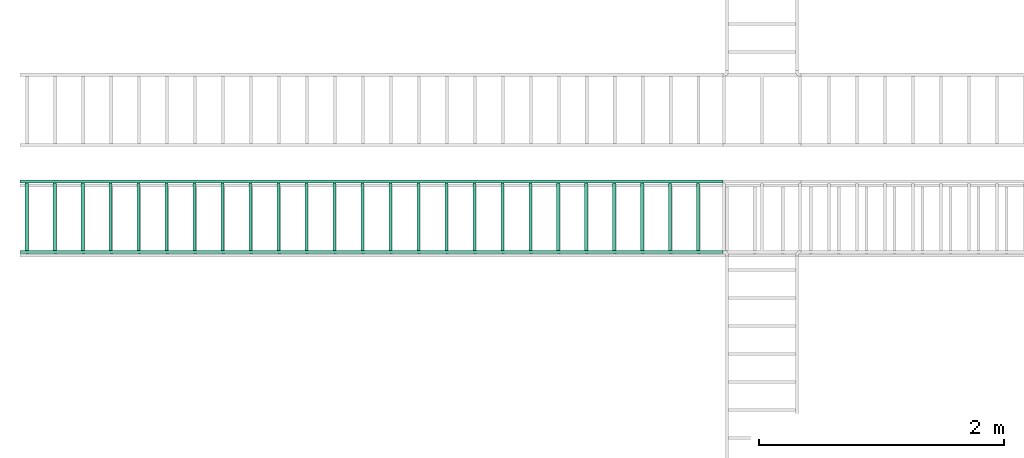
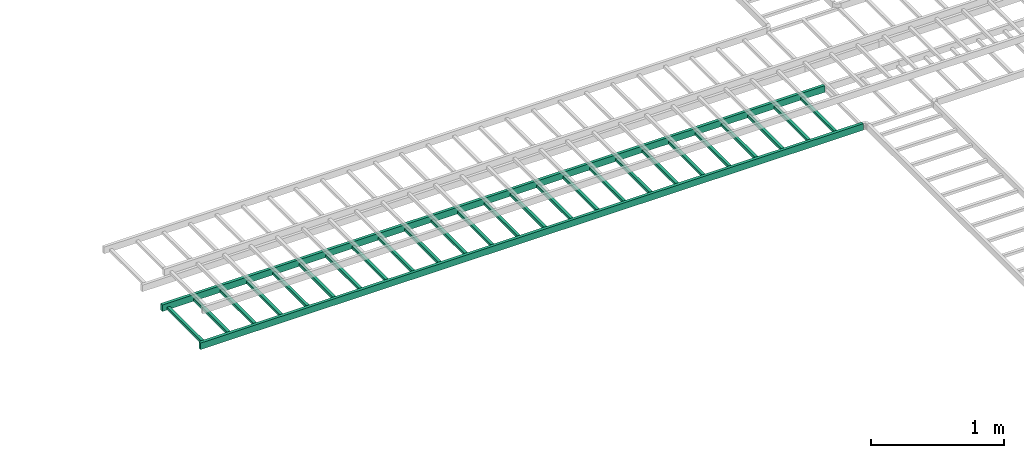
# One storey, part 4 of 7: 1 flow segment.
"""IFC2X3 building model written with IfcOpenShell, lengths in millimetres."""

from ifc_helpers import new_model, entity, si_unit, converted_unit, derived_unit, direction, frame, place, context, subcontext, project, spatial, faceted_brep, type_object, element, save


model = new_model("IFC2X3")

# Units and contexts
model_context = context("Model", 3, precision=0.01, world=frame((0.0, 4.29681676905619e-09, 0.0)), true_north=direction((4.01073788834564e-13, 1.0)))
plan_context = context("Plan", 3, precision=0.01, world=frame((0.0, 4.29681676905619e-09, 0.0)), true_north=direction((4.01073788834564e-13, 1.0)))
body_context = subcontext(model_context, "Body", "Model", "MODEL_VIEW")
ifc_project = project(units=[converted_unit("PLANEANGLEUNIT", "DEGREE", entity("IfcPositiveLengthMeasure", 0.0174532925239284), si_unit("PLANEANGLEUNIT", "RADIAN"), dimensions=[0, 0, 0, 0, 0, 0, 0]), si_unit("AREAUNIT", "SQUARE_METRE"), si_unit("LENGTHUNIT", "METRE", prefix="MILLI"), si_unit("MASSUNIT", "GRAM", prefix="KILO"), si_unit("POWERUNIT", "WATT"), si_unit("PRESSUREUNIT", "PASCAL", prefix="KILO"), si_unit("FORCEUNIT", "NEWTON", prefix="KILO"), si_unit("ELECTRICVOLTAGEUNIT", "VOLT"), si_unit("ELECTRICCURRENTUNIT", "AMPERE"), si_unit("THERMODYNAMICTEMPERATUREUNIT", "DEGREE_CELSIUS"), si_unit("TIMEUNIT", "SECOND"), si_unit("VOLUMEUNIT", "CUBIC_METRE"), derived_unit("LINEARVELOCITYUNIT", [(si_unit("LENGTHUNIT", "METRE"), 1), (si_unit("TIMEUNIT", "SECOND"), -1)]), derived_unit("VOLUMETRICFLOWRATEUNIT", [(si_unit("VOLUMEUNIT", "CUBIC_METRE"), 1), (si_unit("TIMEUNIT", "SECOND"), -1)]), derived_unit("THERMALTRANSMITTANCEUNIT", [(si_unit("POWERUNIT", "WATT"), 1), (si_unit("THERMODYNAMICTEMPERATUREUNIT", "KELVIN"), -1), (si_unit("AREAUNIT", "SQUARE_METRE"), -1)]), derived_unit("SOUNDPRESSUREUNIT", [(si_unit("PRESSUREUNIT", "PASCAL"), 1)])], contexts=[model_context, plan_context])

# Site, building, storey
site_placement = place(None, frame((0.0, -4.29681676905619e-09, 0.0), z_axis=(0.0, 0.0, 1.0), x_axis=(1.0, 0.0, 0.0)))
site = spatial("IfcSite", under=ifc_project, at=site_placement, Name="ENGM", CompositionType="ELEMENT")
building_placement = place(site_placement, frame((0.0, 4.29681676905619e-09, 0.0), z_axis=(0.0, 0.0, 1.0), x_axis=(1.0, 0.0, 0.0)))
building = spatial("IfcBuilding", under=site, at=building_placement, Name="TS", CompositionType="ELEMENT")
storey_placement = place(building_placement, frame((0.0, 0.0, 207370.0), z_axis=(0.0, 0.0, 1.0), x_axis=(1.0, 0.0, 0.0)))
storey = spatial("IfcBuildingStorey", under=building, at=storey_placement, Name="Nivå E", CompositionType="ELEMENT", Elevation=207370.0)

# Flow segment
cable_carrier_segment_type = type_object("IfcCableCarrierSegmentType", Name="Kabelbro", PredefinedType="CABLELADDERSEGMENT")
flow_segment_placement = place(storey_placement, frame((711521.36631, 440025.59175, 2635.0), z_axis=(0.0, 0.0, 1.0), x_axis=(1.0, 0.0, 0.0)))
element("IfcFlowSegment", 1, at=flow_segment_placement, inside=storey, type_object=cable_carrier_segment_type, Name="Kabelbro", context=body_context, shape_type="Brep", body=[
    faceted_brep([(2984.5001, 274.60001, -4.6), (2984.5001, -274.60001, -30.0), (2984.5001, -274.60001, -4.6), (2984.5001, 274.60001, -30.0), (2959.0999, 274.60001, -30.0), (2959.0999, -274.60001, -4.6), (2959.0999, -274.60001, -30.0), (2959.0999, 274.60001, -4.6), (3213.1001, 274.60001, -4.6), (3213.1001, -274.60001, -30.0), (3213.1001, -274.60001, -4.6), (3213.1001, 274.60001, -30.0), (3187.6999, 274.60001, -30.0), (3187.6999, -274.60001, -4.6), (3187.6999, -274.60001, -30.0), (3187.6999, 274.60001, -4.6), (3441.7001, 274.60001, -4.6), (3441.7001, -274.60001, -30.0), (3441.7001, -274.60001, -4.6), (3441.7001, 274.60001, -30.0), (3416.2999, 274.60001, -30.0), (3416.2999, -274.60001, -4.6), (3416.2999, -274.60001, -30.0), (3416.2999, 274.60001, -4.6), (3670.3001, 274.60001, -4.6), (3670.3001, -274.60001, -30.0), (3670.3001, -274.60001, -4.6), (3670.3001, 274.60001, -30.0), (3644.8999, 274.60001, -30.0), (3644.8999, -274.60001, -4.6), (3644.8999, -274.60001, -30.0), (3644.8999, 274.60001, -4.6), (3898.9001, 274.60001, -4.6), (3898.9001, -274.60001, -30.0), (3898.9001, -274.60001, -4.6), (3898.9001, 274.60001, -30.0), (3873.4999, 274.60001, -30.0), (3873.4999, -274.60001, -4.6), (3873.4999, -274.60001, -30.0), (3873.4999, 274.60001, -4.6), (4127.5001, 274.60001, -4.6), (4127.5001, -274.60001, -30.0), (4127.5001, -274.60001, -4.6), (4127.5001, 274.60001, -30.0), (4102.0999, 274.60001, -30.0), (4102.0999, -274.60001, -4.6), (4102.0999, -274.60001, -30.0), (4102.0999, 274.60001, -4.6), (4356.1001, 274.60001, -4.6), (4356.1001, -274.60001, -30.0), (4356.1001, -274.60001, -4.6), (4356.1001, 274.60001, -30.0), (4330.6999, 274.60001, -30.0), (4330.6999, -274.60001, -4.6), (4330.6999, -274.60001, -30.0), (4330.6999, 274.60001, -4.6), (4584.7001, 274.60001, -4.6), (4584.7001, -274.60001, -30.0), (4584.7001, -274.60001, -4.6), (4584.7001, 274.60001, -30.0), (4559.2999, 274.60001, -30.0), (4559.2999, -274.60001, -4.6), (4559.2999, -274.60001, -30.0), (4559.2999, 274.60001, -4.6), (4813.3001, 274.60001, -4.6), (4813.3001, -274.60001, -30.0), (4813.3001, -274.60001, -4.6), (4813.3001, 274.60001, -30.0), (4787.8999, 274.60001, -30.0), (4787.8999, -274.60001, -4.6), (4787.8999, -274.60001, -30.0), (4787.8999, 274.60001, -4.6), (5041.89981, 274.60001, -4.6), (5041.89981, -274.60001, -30.0), (5041.89981, -274.60001, -4.6), (5041.89981, 274.60001, -30.0), (5016.50019, 274.60001, -30.0), (5016.50019, -274.60001, -4.6), (5016.50019, -274.60001, -30.0), (5016.50019, 274.60001, -4.6), (5270.49981, 274.60001, -4.6), (5270.49981, -274.60001, -30.0), (5270.49981, -274.60001, -4.6), (5270.49981, 274.60001, -30.0), (5245.10019, 274.60001, -30.0), (5245.10019, -274.60001, -4.6), (5245.10019, -274.60001, -30.0), (5245.10019, 274.60001, -4.6), (5499.09981, 274.60001, -4.6), (5499.09981, -274.60001, -30.0), (5499.09981, -274.60001, -4.6), (5499.09981, 274.60001, -30.0), (5473.70019, 274.60001, -30.0), (5473.70019, -274.60001, -4.6), (5473.70019, -274.60001, -30.0), (5473.70019, 274.60001, -4.6), (5727.69981, 274.60001, -4.6), (5727.69981, -274.60001, -30.0), (5727.69981, -274.60001, -4.6), (5727.69981, 274.60001, -30.0), (5702.30019, 274.60001, -30.0), (5702.30019, -274.60001, -4.6), (5702.30019, -274.60001, -30.0), (5702.30019, 274.60001, -4.6), (5956.29981, 274.60001, -4.6), (5956.29981, -274.60001, -30.0), (5956.29981, -274.60001, -4.6), (5956.29981, 274.60001, -30.0), (5930.90019, 274.60001, -30.0), (5930.90019, -274.60001, -4.6), (5930.90019, -274.60001, -30.0), (5930.90019, 274.60001, -4.6), (6184.89981, 274.60001, -4.6), (6184.89981, -274.60001, -30.0), (6184.89981, -274.60001, -4.6), (6184.89981, 274.60001, -30.0), (6159.50019, 274.60001, -30.0), (6159.50019, -274.60001, -4.6), (6159.50019, -274.60001, -30.0), (6159.50019, 274.60001, -4.6), (6413.49981, 274.60001, -4.6), (6413.49981, -274.60001, -30.0), (6413.49981, -274.60001, -4.6), (6413.49981, 274.60001, -30.0), (6388.10019, 274.60001, -30.0), (6388.10019, -274.60001, -4.6), (6388.10019, -274.60001, -30.0), (6388.10019, 274.60001, -4.6), (6642.09981, 274.60001, -4.6), (6642.09981, -274.60001, -30.0), (6642.09981, -274.60001, -4.6), (6642.09981, 274.60001, -30.0), (6616.70019, 274.60001, -30.0), (6616.70019, -274.60001, -4.6), (6616.70019, -274.60001, -30.0), (6616.70019, 274.60001, -4.6), (6870.69981, 274.60001, -4.6), (6870.69981, -274.60001, -30.0), (6870.69981, -274.60001, -4.6), (6870.69981, 274.60001, -30.0), (6845.30019, 274.60001, -30.0), (6845.30019, -274.60001, -4.6), (6845.30019, -274.60001, -30.0), (6845.30019, 274.60001, -4.6), (7099.29981, 274.60001, -4.6), (7099.29981, -274.60001, -30.0), (7099.29981, -274.60001, -4.6), (7099.29981, 274.60001, -30.0), (7073.90019, 274.60001, -30.0), (7073.90019, -274.60001, -4.6), (7073.90019, -274.60001, -30.0), (7073.90019, 274.60001, -4.6), (7327.89981, 274.60001, -4.6), (7327.89981, -274.60001, -30.0), (7327.89981, -274.60001, -4.6), (7327.89981, 274.60001, -30.0), (7302.50019, 274.60001, -30.0), (7302.50019, -274.60001, -4.6), (7302.50019, -274.60001, -30.0), (7302.50019, 274.60001, -4.6), (7556.49981, 274.60001, -4.6), (7556.49981, -274.60001, -30.0), (7556.49981, -274.60001, -4.6), (7556.49981, 274.60001, -30.0), (7531.10019, 274.60001, -30.0), (7531.10019, -274.60001, -4.6), (7531.10019, -274.60001, -30.0), (7531.10019, 274.60001, -4.6), (7785.09981, 274.60001, -4.6), (7785.09981, -274.60001, -30.0), (7785.09981, -274.60001, -4.6), (7785.09981, 274.60001, -30.0), (7759.70019, 274.60001, -30.0), (7759.70019, -274.60001, -4.6), (7759.70019, -274.60001, -30.0), (7759.70019, 274.60001, -4.6), (8013.69981, 274.60001, -4.6), (8013.69981, -274.60001, -30.0), (8013.69981, -274.60001, -4.6), (8013.69981, 274.60001, -30.0), (7988.30019, 274.60001, -30.0), (7988.30019, -274.60001, -4.6), (7988.30019, -274.60001, -30.0), (7988.30019, 274.60001, -4.6), (8242.29981, 274.60001, -4.6), (8242.29981, -274.60001, -30.0), (8242.29981, -274.60001, -4.6), (8242.29981, 274.60001, -30.0), (8216.90019, 274.60001, -30.0), (8216.90019, -274.60001, -4.6), (8216.90019, -274.60001, -30.0), (8216.90019, 274.60001, -4.6), (8470.89981, 274.60001, -4.6), (8470.89981, -274.60001, -30.0), (8470.89981, -274.60001, -4.6), (8470.89981, 274.60001, -30.0), (8445.50019, 274.60001, -30.0), (8445.50019, -274.60001, -4.6), (8445.50019, -274.60001, -30.0), (8445.50019, 274.60001, -4.6), (8659.99989, -274.60001, -30.0), (8659.99989, -300.0, -30.0), (8659.99989, -300.0, 30.0), (8659.99989, -274.60001, 30.0), (8659.99989, 300.0, -30.0), (8659.99989, 274.60001, -30.0), (8659.99989, 274.60001, 30.0), (8659.99989, 300.0, 30.0), (2916.62118999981, -300.0, -30.0), (2916.62118999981, -300.0, 9.79246263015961), (2916.62118999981, -300.0, 30.0), (2916.62118999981, -283.15453078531, 30.0), (2916.62118999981, -274.60001, 30.0), (2916.62118999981, -274.60001, -9.79246263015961), (2916.62118999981, -274.60001, -30.0), (2916.62118999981, -291.44547921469, -30.0), (2916.62118999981, 300.0, 30.0), (2916.62118999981, 300.0, -9.79246263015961), (2916.62118999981, 300.0, -30.0), (2916.62118999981, 283.15453078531, -30.0), (2916.62118999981, 274.60001, -30.0), (2916.62118999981, 274.60001, 9.79246263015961), (2916.62118999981, 274.60001, 30.0), (2916.62118999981, 291.44547921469, 30.0)], [[[0, 1, 2]], [[1, 0, 3]], [[4, 5, 6]], [[5, 4, 7]], [[8, 9, 10]], [[9, 8, 11]], [[12, 13, 14]], [[13, 12, 15]], [[16, 17, 18]], [[17, 16, 19]], [[20, 21, 22]], [[21, 20, 23]], [[24, 25, 26]], [[25, 24, 27]], [[28, 29, 30]], [[29, 28, 31]], [[32, 33, 34]], [[33, 32, 35]], [[36, 37, 38]], [[37, 36, 39]], [[40, 41, 42]], [[41, 40, 43]], [[44, 45, 46]], [[45, 44, 47]], [[48, 49, 50]], [[49, 48, 51]], [[52, 53, 54]], [[53, 52, 55]], [[56, 57, 58]], [[57, 56, 59]], [[60, 61, 62]], [[61, 60, 63]], [[64, 65, 66]], [[65, 64, 67]], [[68, 69, 70]], [[69, 68, 71]], [[72, 73, 74]], [[73, 72, 75]], [[76, 77, 78]], [[77, 76, 79]], [[80, 81, 82]], [[81, 80, 83]], [[84, 85, 86]], [[85, 84, 87]], [[88, 89, 90]], [[89, 88, 91]], [[92, 93, 94]], [[93, 92, 95]], [[96, 97, 98]], [[97, 96, 99]], [[100, 101, 102]], [[101, 100, 103]], [[104, 105, 106]], [[105, 104, 107]], [[108, 109, 110]], [[109, 108, 111]], [[112, 113, 114]], [[113, 112, 115]], [[116, 117, 118]], [[117, 116, 119]], [[120, 121, 122]], [[121, 120, 123]], [[124, 125, 126]], [[125, 124, 127]], [[128, 129, 130]], [[129, 128, 131]], [[132, 133, 134]], [[133, 132, 135]], [[136, 137, 138]], [[137, 136, 139]], [[140, 141, 142]], [[141, 140, 143]], [[144, 145, 146]], [[145, 144, 147]], [[148, 149, 150]], [[149, 148, 151]], [[152, 153, 154]], [[153, 152, 155]], [[156, 157, 158]], [[157, 156, 159]], [[160, 161, 162]], [[161, 160, 163]], [[164, 165, 166]], [[165, 164, 167]], [[168, 169, 170]], [[169, 168, 171]], [[172, 173, 174]], [[173, 172, 175]], [[176, 177, 178]], [[177, 176, 179]], [[180, 181, 182]], [[181, 180, 183]], [[184, 185, 186]], [[185, 184, 187]], [[188, 189, 190]], [[189, 188, 191]], [[192, 193, 194]], [[193, 192, 195]], [[196, 197, 198]], [[197, 196, 199]], [[5, 2, 1]], [[1, 6, 5]], [[3, 0, 7]], [[7, 4, 3]], [[13, 10, 9]], [[9, 14, 13]], [[11, 8, 15]], [[15, 12, 11]], [[21, 18, 17]], [[17, 22, 21]], [[19, 16, 23]], [[23, 20, 19]], [[29, 26, 25]], [[25, 30, 29]], [[27, 24, 31]], [[31, 28, 27]], [[37, 34, 33]], [[33, 38, 37]], [[35, 32, 39]], [[39, 36, 35]], [[45, 42, 41]], [[41, 46, 45]], [[43, 40, 47]], [[47, 44, 43]], [[53, 50, 49]], [[49, 54, 53]], [[51, 48, 55]], [[55, 52, 51]], [[61, 58, 57]], [[57, 62, 61]], [[59, 56, 63]], [[63, 60, 59]], [[69, 66, 65]], [[65, 70, 69]], [[67, 64, 71]], [[71, 68, 67]], [[77, 74, 73]], [[73, 78, 77]], [[75, 72, 79]], [[79, 76, 75]], [[85, 82, 81]], [[81, 86, 85]], [[83, 80, 87]], [[87, 84, 83]], [[93, 90, 89]], [[89, 94, 93]], [[91, 88, 95]], [[95, 92, 91]], [[101, 98, 97]], [[97, 102, 101]], [[99, 96, 103]], [[103, 100, 99]], [[109, 106, 105]], [[105, 110, 109]], [[107, 104, 111]], [[111, 108, 107]], [[117, 114, 113]], [[113, 118, 117]], [[115, 112, 119]], [[119, 116, 115]], [[125, 122, 121]], [[121, 126, 125]], [[123, 120, 127]], [[127, 124, 123]], [[133, 130, 129]], [[129, 134, 133]], [[131, 128, 135]], [[135, 132, 131]], [[141, 138, 137]], [[137, 142, 141]], [[139, 136, 143]], [[143, 140, 139]], [[149, 146, 145]], [[145, 150, 149]], [[147, 144, 151]], [[151, 148, 147]], [[157, 154, 153]], [[153, 158, 157]], [[155, 152, 159]], [[159, 156, 155]], [[165, 162, 161]], [[161, 166, 165]], [[163, 160, 167]], [[167, 164, 163]], [[173, 170, 169]], [[169, 174, 173]], [[171, 168, 175]], [[175, 172, 171]], [[181, 178, 177]], [[177, 182, 181]], [[179, 176, 183]], [[183, 180, 179]], [[189, 186, 185]], [[185, 190, 189]], [[187, 184, 191]], [[191, 188, 187]], [[197, 194, 193]], [[193, 198, 197]], [[195, 192, 199]], [[199, 196, 195]], [[0, 2, 5]], [[5, 7, 0]], [[4, 6, 1]], [[1, 3, 4]], [[8, 10, 13]], [[13, 15, 8]], [[12, 14, 9]], [[9, 11, 12]], [[16, 18, 21]], [[21, 23, 16]], [[20, 22, 17]], [[17, 19, 20]], [[24, 26, 29]], [[29, 31, 24]], [[28, 30, 25]], [[25, 27, 28]], [[32, 34, 37]], [[37, 39, 32]], [[36, 38, 33]], [[33, 35, 36]], [[40, 42, 45]], [[45, 47, 40]], [[44, 46, 41]], [[41, 43, 44]], [[48, 50, 53]], [[53, 55, 48]], [[52, 54, 49]], [[49, 51, 52]], [[56, 58, 61]], [[61, 63, 56]], [[60, 62, 57]], [[57, 59, 60]], [[64, 66, 69]], [[69, 71, 64]], [[68, 70, 65]], [[65, 67, 68]], [[72, 74, 77]], [[77, 79, 72]], [[76, 78, 73]], [[73, 75, 76]], [[80, 82, 85]], [[85, 87, 80]], [[84, 86, 81]], [[81, 83, 84]], [[88, 90, 93]], [[93, 95, 88]], [[92, 94, 89]], [[89, 91, 92]], [[96, 98, 101]], [[101, 103, 96]], [[100, 102, 97]], [[97, 99, 100]], [[104, 106, 109]], [[109, 111, 104]], [[108, 110, 105]], [[105, 107, 108]], [[112, 114, 117]], [[117, 119, 112]], [[116, 118, 113]], [[113, 115, 116]], [[120, 122, 125]], [[125, 127, 120]], [[124, 126, 121]], [[121, 123, 124]], [[128, 130, 133]], [[133, 135, 128]], [[132, 134, 129]], [[129, 131, 132]], [[136, 138, 141]], [[141, 143, 136]], [[140, 142, 137]], [[137, 139, 140]], [[144, 146, 149]], [[149, 151, 144]], [[148, 150, 145]], [[145, 147, 148]], [[152, 154, 157]], [[157, 159, 152]], [[156, 158, 153]], [[153, 155, 156]], [[160, 162, 165]], [[165, 167, 160]], [[164, 166, 161]], [[161, 163, 164]], [[168, 170, 173]], [[173, 175, 168]], [[172, 174, 169]], [[169, 171, 172]], [[176, 178, 181]], [[181, 183, 176]], [[180, 182, 177]], [[177, 179, 180]], [[184, 186, 189]], [[189, 191, 184]], [[188, 190, 185]], [[185, 187, 188]], [[192, 194, 197]], [[197, 199, 192]], [[196, 198, 193]], [[193, 195, 196]], [[200, 201, 202]], [[202, 203, 200]], [[204, 205, 206]], [[206, 207, 204]], [[208, 209, 201]], [[209, 210, 202, 201]], [[210, 211, 202]], [[211, 212, 203, 202]], [[212, 213, 203]], [[213, 214, 200, 203]], [[214, 215, 200]], [[215, 208, 201, 200]], [[216, 217, 207]], [[217, 218, 204, 207]], [[218, 219, 204]], [[219, 220, 205, 204]], [[220, 221, 205]], [[221, 222, 206, 205]], [[222, 223, 206]], [[223, 216, 207, 206]], [[215, 214, 213, 212, 211, 210, 209, 208]], [[223, 222, 221, 220, 219, 218, 217, 216]]], orient=[[False], [False], [False], [False], [False], [False], [False], [False], [False], [False], [False], [False], [False], [False], [False], [False], [False], [False], [False], [False], [False], [False], [False], [False], [False], [False], [False], [False], [False], [False], [False], [False], [False], [False], [False], [False], [False], [False], [False], [False], [False], [False], [False], [False], [False], [False], [False], [False], [False], [False], [False], [False], [False], [False], [False], [False], [False], [False], [False], [False], [False], [False], [False], [False], [False], [False], [False], [False], [False], [False], [False], [False], [False], [False], [False], [False], [False], [False], [False], [False], [False], [False], [False], [False], [False], [False], [False], [False], [False], [False], [False], [False], [False], [False], [False], [False], [False], [False], [False], [False], [False], [False], [False], [False], [False], [False], [False], [False], [False], [False], [False], [False], [False], [False], [False], [False], [False], [False], [False], [False], [False], [False], [False], [False], [False], [False], [False], [False], [False], [False], [False], [False], [False], [False], [False], [False], [False], [False], [False], [False], [False], [False], [False], [False], [False], [False], [False], [False], [False], [False], [False], [False], [False], [False], [False], [False], [False], [False], [False], [False], [False], [False], [False], [False], [False], [False], [False], [False], [False], [False], [False], [False], [False], [False], [False], [False], [False], [False], [False], [False], [False], [False], [False], [False], [False], [False], [False], [False], [False], [False], [False], [False], [False], [False], [False], [False], [False], [False], [False], [False], [False], [False], [False], [False], [False], [False], [False], [False], [False], [False], [False], [False], [False], [False], [False], [False], [False], [False], [False], [False], [False], [False], [False], [False], [False], [False], [False], [False], [False], [False], [False], [False], [False], [False], [False], [False], [False], [False], [False], [False], [False], [False], [False], [False], [False], [False], [False], [False], [False], [False], [False], [False], [False], [False], [False], [False], [False], [False], [False], [False], [False], [False], [False], [False], [False], [False], [False], [False], [False], [False], [False], [False], [False], [False], [False], [False], [False], [False], [False], [False], [False], [False], [False], [False], [False], [False], [False], [False], [False], [False], [False], [False], [False], [False], [False], [False], [False], [False], [False], [False], [False], [False], [False], [False], [False], [False], [False], [False], [False], [False], [False], [False], [False], [False], [False], [False], [False], [False], [False], [False], [False], [False]]),
])

save(model, "model.ifc")
